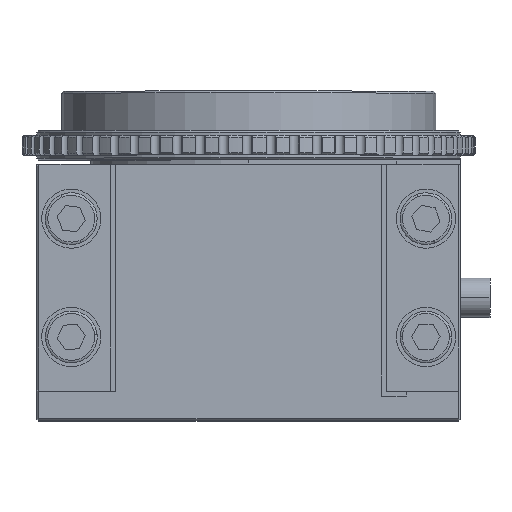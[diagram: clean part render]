
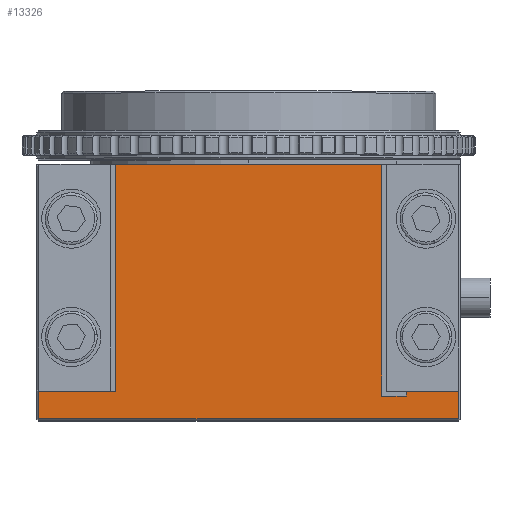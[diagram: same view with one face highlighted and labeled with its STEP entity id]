
A CAD part, top view. The second image highlights one B-rep face of the part: STEP entity #13326.
In plain terms, the highlighted planar face has unit normal (0, 0, 1).
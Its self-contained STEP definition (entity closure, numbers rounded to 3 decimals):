
#190 = CARTESIAN_POINT ( 'NONE',  ( -21.3, -1.011, 50.718 ) ) ;
#428 = CARTESIAN_POINT ( 'NONE',  ( -13.5, 21.989, 50.718 ) ) ;
#828 = ORIENTED_EDGE ( 'NONE', *, *, #3911, .F. ) ;
#1211 = CARTESIAN_POINT ( 'NONE',  ( 13.5, 21.989, 50.718 ) ) ;
#1276 = VERTEX_POINT ( 'NONE', #14010 ) ;
#1533 = LINE ( 'NONE', #22143, #21900 ) ;
#1553 = ORIENTED_EDGE ( 'NONE', *, *, #8963, .F. ) ;
#2514 = ORIENTED_EDGE ( 'NONE', *, *, #12468, .T. ) ;
#2574 = EDGE_CURVE ( 'NONE', #19621, #17071, #1533, .T. ) ;
#2860 = ORIENTED_EDGE ( 'NONE', *, *, #16030, .F. ) ;
#2988 = DIRECTION ( 'NONE',  ( 0., -1., 0. ) ) ;
#3091 = EDGE_CURVE ( 'NONE', #8597, #11383, #10256, .T. ) ;
#3824 = CARTESIAN_POINT ( 'NONE',  ( 21.3, -3.811, 50.718 ) ) ;
#3911 = EDGE_CURVE ( 'NONE', #17071, #20144, #14461, .T. ) ;
#4020 = LINE ( 'NONE', #1211, #8548 ) ;
#4058 = ORIENTED_EDGE ( 'NONE', *, *, #19918, .T. ) ;
#4313 = DIRECTION ( 'NONE',  ( 0., -1., 0. ) ) ;
#5087 = FACE_OUTER_BOUND ( 'NONE', #11964, .T. ) ;
#5644 = VECTOR ( 'NONE', #11525, 1000. ) ;
#6014 = DIRECTION ( 'NONE',  ( 0., 1., 0. ) ) ;
#6380 = LINE ( 'NONE', #23228, #20300 ) ;
#6707 = DIRECTION ( 'NONE',  ( 1., 0., 0. ) ) ;
#7065 = LINE ( 'NONE', #15062, #14190 ) ;
#7422 = VECTOR ( 'NONE', #15229, 1000. ) ;
#7506 = LINE ( 'NONE', #19611, #13792 ) ;
#7730 = VECTOR ( 'NONE', #4313, 1000. ) ;
#8287 = ORIENTED_EDGE ( 'NONE', *, *, #3091, .T. ) ;
#8382 = EDGE_CURVE ( 'NONE', #9355, #8597, #21595, .T. ) ;
#8548 = VECTOR ( 'NONE', #6707, 1000. ) ;
#8597 = VERTEX_POINT ( 'NONE', #14117 ) ;
#8880 = LINE ( 'NONE', #15466, #7730 ) ;
#8963 = EDGE_CURVE ( 'NONE', #13945, #1276, #4020, .T. ) ;
#9355 = VERTEX_POINT ( 'NONE', #190 ) ;
#9776 = VERTEX_POINT ( 'NONE', #21955 ) ;
#10256 = LINE ( 'NONE', #11514, #7422 ) ;
#10299 = AXIS2_PLACEMENT_3D ( 'NONE', #23074, #23312, #15933 ) ;
#10310 = PLANE ( 'NONE',  #10299 ) ;
#10772 = CARTESIAN_POINT ( 'NONE',  ( 13.5, -1.511, 50.718 ) ) ;
#11093 = DIRECTION ( 'NONE',  ( 0., -1., 0. ) ) ;
#11383 = VERTEX_POINT ( 'NONE', #3824 ) ;
#11435 = ORIENTED_EDGE ( 'NONE', *, *, #8382, .T. ) ;
#11514 = CARTESIAN_POINT ( 'NONE',  ( -21.5, -3.811, 50.718 ) ) ;
#11525 = DIRECTION ( 'NONE',  ( 0., 1., 0. ) ) ;
#11964 = EDGE_LOOP ( 'NONE', ( #18174, #828, #12043, #19684, #1553, #2514, #2860, #11435, #8287, #4058 ) ) ;
#12043 = ORIENTED_EDGE ( 'NONE', *, *, #2574, .F. ) ;
#12415 = LINE ( 'NONE', #18714, #12697 ) ;
#12468 = EDGE_CURVE ( 'NONE', #13945, #9776, #8880, .T. ) ;
#12697 = VECTOR ( 'NONE', #20477, 1000. ) ;
#13326 = ADVANCED_FACE ( 'NONE', ( #5087 ), #10310, .F. ) ;
#13730 = CARTESIAN_POINT ( 'NONE',  ( 21.3, -1.011, 50.718 ) ) ;
#13792 = VECTOR ( 'NONE', #19437, 1000. ) ;
#13945 = VERTEX_POINT ( 'NONE', #428 ) ;
#14010 = CARTESIAN_POINT ( 'NONE',  ( 13.5, 21.989, 50.718 ) ) ;
#14117 = CARTESIAN_POINT ( 'NONE',  ( -21.3, -3.811, 50.718 ) ) ;
#14190 = VECTOR ( 'NONE', #6014, 1000. ) ;
#14461 = LINE ( 'NONE', #16935, #5644 ) ;
#15062 = CARTESIAN_POINT ( 'NONE',  ( 21.3, -1.011, 50.718 ) ) ;
#15229 = DIRECTION ( 'NONE',  ( 1., 0., 0. ) ) ;
#15466 = CARTESIAN_POINT ( 'NONE',  ( -13.5, 21.989, 50.718 ) ) ;
#15561 = EDGE_CURVE ( 'NONE', #20144, #15867, #12415, .T. ) ;
#15867 = VERTEX_POINT ( 'NONE', #13730 ) ;
#15933 = DIRECTION ( 'NONE',  ( -1., 0., 0. ) ) ;
#16030 = EDGE_CURVE ( 'NONE', #9355, #9776, #7506, .T. ) ;
#16864 = DIRECTION ( 'NONE',  ( 1., 0., 0. ) ) ;
#16935 = CARTESIAN_POINT ( 'NONE',  ( 16., -5.493, 50.718 ) ) ;
#17071 = VERTEX_POINT ( 'NONE', #21992 ) ;
#18174 = ORIENTED_EDGE ( 'NONE', *, *, #15561, .F. ) ;
#18230 = EDGE_CURVE ( 'NONE', #1276, #19621, #6380, .T. ) ;
#18714 = CARTESIAN_POINT ( 'NONE',  ( -21.5, -1.011, 50.718 ) ) ;
#19437 = DIRECTION ( 'NONE',  ( 1., 0., 0. ) ) ;
#19611 = CARTESIAN_POINT ( 'NONE',  ( -21.5, -1.011, 50.718 ) ) ;
#19621 = VERTEX_POINT ( 'NONE', #10772 ) ;
#19684 = ORIENTED_EDGE ( 'NONE', *, *, #18230, .F. ) ;
#19918 = EDGE_CURVE ( 'NONE', #11383, #15867, #7065, .T. ) ;
#20144 = VERTEX_POINT ( 'NONE', #23129 ) ;
#20300 = VECTOR ( 'NONE', #11093, 1000. ) ;
#20477 = DIRECTION ( 'NONE',  ( 1., 0., 0. ) ) ;
#20839 = CARTESIAN_POINT ( 'NONE',  ( -21.3, -1.011, 50.718 ) ) ;
#21595 = LINE ( 'NONE', #20839, #23320 ) ;
#21900 = VECTOR ( 'NONE', #16864, 1000. ) ;
#21955 = CARTESIAN_POINT ( 'NONE',  ( -13.5, -1.011, 50.718 ) ) ;
#21992 = CARTESIAN_POINT ( 'NONE',  ( 16., -1.511, 50.718 ) ) ;
#22143 = CARTESIAN_POINT ( 'NONE',  ( 13.5, -1.511, 50.718 ) ) ;
#23074 = CARTESIAN_POINT ( 'NONE',  ( -21.5, -1.011, 50.718 ) ) ;
#23129 = CARTESIAN_POINT ( 'NONE',  ( 16., -1.011, 50.718 ) ) ;
#23228 = CARTESIAN_POINT ( 'NONE',  ( 13.5, 21.989, 50.718 ) ) ;
#23312 = DIRECTION ( 'NONE',  ( 0., 0., -1. ) ) ;
#23320 = VECTOR ( 'NONE', #2988, 1000. ) ;
